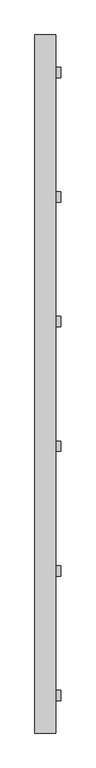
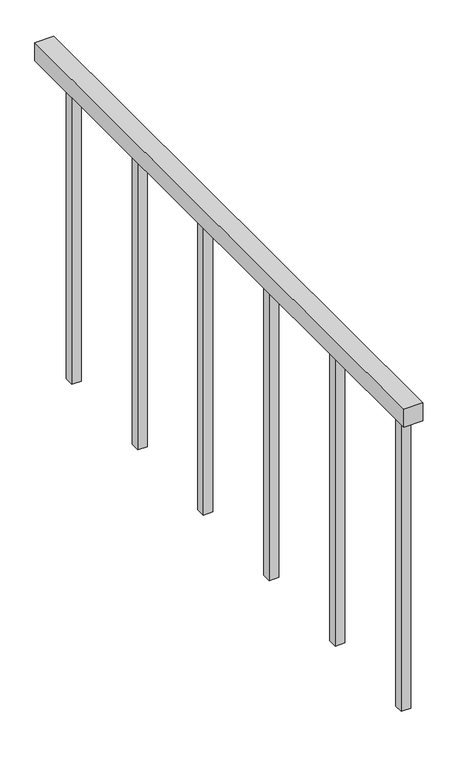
"""IFC4 building model written with IfcOpenShell, lengths in millimetres: railing geometry, ADSK_Стандартное_h 900 Поручень квадратный без направляющих."""

import ifcopenshell
import ifcopenshell.guid

model = None  # the IFC model being written
_history = None  # IfcOwnerHistory: only IFC2X3 demands one
_inside = {}  # id of a spatial element -> (the spatial element, [elements in it])
_under = {}  # id of a project, library or spatial element -> (it, [spatial elements below it])
_declared = {}  # id of a project -> (the project, [libraries it declares])
_typed = {}  # id of a type object -> (the type object, [elements of that type])
_made_of = {}  # id of a material, layer set ... -> (it, [elements and type objects made of it])


def new_model(schema):
    """Start an empty IFC model of exactly this schema.

    Asked for "IFC4X3", IfcOpenShell would pick the latest addendum, in which some entities
    have other attributes; the version numbers below select the first issue.
    IFC2X3 requires an IfcOwnerHistory on every rooted entity: one is made here for all.
    """
    global model, _history
    if schema == "IFC4X3":
        model = ifcopenshell.file(schema_version=(4, 3, 0, 0))
    else:
        model = ifcopenshell.file(schema=schema)
    _inside.clear()
    _under.clear()
    _declared.clear()
    _typed.clear()
    _made_of.clear()
    _history = None
    if model.schema == "IFC2X3":
        org = make("IfcOrganization", Name="unknown")
        user = make(
            "IfcPersonAndOrganization",
            ThePerson=make("IfcPerson", FamilyName="unknown"),
            TheOrganization=org,
        )
        app = make(
            "IfcApplication",
            ApplicationDeveloper=org,
            Version="unknown",
            ApplicationFullName="unknown",
            ApplicationIdentifier="unknown",
        )
        _history = make(
            "IfcOwnerHistory",
            OwningUser=user,
            OwningApplication=app,
            ChangeAction="ADDED",
            CreationDate=0,
        )
    return model


def make(cls, **values):
    """One entity of the class cls with the attributes given. An attribute that is None is left unset."""
    return model.create_entity(
        cls, **{name: value for name, value in values.items() if value is not None}
    )


def rooted(cls, **values):
    """An entity with a GlobalId (a new one), such as an element, a storey or a relation."""
    return make(cls, GlobalId=ifcopenshell.guid.new(), OwnerHistory=_history, **values)


def si_unit(unit_type, name, prefix=None):
    """IfcSIUnit, for example si_unit("LENGTHUNIT", "METRE", prefix="MILLI")."""
    return make("IfcSIUnit", UnitType=unit_type, Prefix=prefix, Name=name)


def assignment(units):
    """IfcUnitAssignment: the units of a project."""
    return None if units is None else make("IfcUnitAssignment", Units=units)


def point(xyz):
    """IfcCartesianPoint."""
    return None if xyz is None else make("IfcCartesianPoint", Coordinates=xyz)


def direction(xyz):
    """IfcDirection."""
    return None if xyz is None else make("IfcDirection", DirectionRatios=xyz)


def frame(location, z_axis=None, x_axis=None):
    """IfcAxis2Placement3D, a coordinate frame: its origin and axes. An axis left out is left unset."""
    return make(
        "IfcAxis2Placement3D",
        Location=point(location),
        Axis=direction(z_axis),
        RefDirection=direction(x_axis),
    )


def origin():
    """The frame at (0, 0, 0) with its axes left unset."""
    return frame((0.0, 0.0, 0.0))


def place(relative_to, where):
    """IfcLocalPlacement: puts the frame where relative to a parent placement (None: the world)."""
    return make(
        "IfcLocalPlacement", PlacementRelTo=relative_to, RelativePlacement=where
    )


def context(
    kind, dimensions, precision=None, world=None, true_north=None, identifier=None
):
    """IfcGeometricRepresentationContext, for example the 3D "Model" context."""
    return make(
        "IfcGeometricRepresentationContext",
        ContextIdentifier=identifier,
        ContextType=kind,
        CoordinateSpaceDimension=dimensions,
        Precision=precision,
        WorldCoordinateSystem=world,
        TrueNorth=true_north,
    )


def project(units=None, contexts=None):
    """IfcProject with its units and contexts."""
    return rooted(
        "IfcProject",
        Name="project",
        RepresentationContexts=contexts,
        UnitsInContext=assignment(units),
    )


def spatial(cls, under=None, at=None, **own):
    """A site, building, storey or space (cls), placed at a placement, below another one or the project."""
    s = rooted(cls, ObjectPlacement=at, **own)
    if under is not None:
        _under.setdefault(under.id(), (under, []))[1].append(s)
    return s


def polyline(points):
    """IfcPolyline through the points."""
    return make("IfcPolyline", Points=[point(p) for p in points])


def outline(outer, holes=None, kind="AREA"):
    """IfcArbitraryClosedProfileDef: a profile drawn as a closed curve; with holes, ...WithVoids."""
    if holes is None:
        return make("IfcArbitraryClosedProfileDef", ProfileType=kind, OuterCurve=outer)
    return make(
        "IfcArbitraryProfileDefWithVoids",
        ProfileType=kind,
        OuterCurve=outer,
        InnerCurves=holes,
    )


def extrude(swept, where, along, depth):
    """IfcExtrudedAreaSolid: the profile swept, set in the frame where, extruded along a direction by depth."""
    return make(
        "IfcExtrudedAreaSolid",
        SweptArea=swept,
        Position=where,
        ExtrudedDirection=direction(along),
        Depth=depth,
    )


def shape(context_of_items, identifier, shape_type, items):
    """IfcShapeRepresentation: the items that make up one representation, for example the "Body"."""
    return make(
        "IfcShapeRepresentation",
        ContextOfItems=context_of_items,
        RepresentationIdentifier=identifier,
        RepresentationType=shape_type,
        Items=items,
    )


def source(mapping_origin, context_of_items, identifier, shape_type, items):
    """IfcRepresentationMap: a shape defined once, which mapped items show again and again."""
    return make(
        "IfcRepresentationMap",
        MappingOrigin=mapping_origin,
        MappedRepresentation=shape(context_of_items, identifier, shape_type, items),
    )


def transform(
    local_origin,
    x_axis=None,
    y_axis=None,
    z_axis=None,
    scale=None,
    scale2=None,
    scale3=None,
    uniform=True,
):
    """IfcCartesianTransformationOperator3D, or its non-uniform kind. x_axis, y_axis, z_axis: its Axis1, 2, 3."""
    if uniform:
        return make(
            "IfcCartesianTransformationOperator3D",
            Axis1=direction(x_axis),
            Axis2=direction(y_axis),
            LocalOrigin=point(local_origin),
            Scale=scale,
            Axis3=direction(z_axis),
        )
    return make(
        "IfcCartesianTransformationOperator3DnonUniform",
        Axis1=direction(x_axis),
        Axis2=direction(y_axis),
        LocalOrigin=point(local_origin),
        Scale=scale,
        Axis3=direction(z_axis),
        Scale2=scale2,
        Scale3=scale3,
    )


def mapped(mapping_source, mapping_target):
    """IfcMappedItem: shows the shape of a source again, moved by a transform."""
    return make(
        "IfcMappedItem", MappingSource=mapping_source, MappingTarget=mapping_target
    )


def made_of(thing, what):
    """Note that an element or type object is made of a material, layer set ...; save() writes the relation."""
    if what is not None:
        _made_of.setdefault(what.id(), (what, []))[1].append(thing)
    return thing


def element(
    cls,
    number,
    at=None,
    inside=None,
    cuts=None,
    type_object=None,
    material=None,
    context=None,
    identifier="Body",
    shape_type=None,
    held_by="IfcProductDefinitionShape",
    body=None,
    shapes=None,
    **own,
):
    """One element of the class cls, such as IfcWall. Its Tag is "e" and its number.

    at: its placement. inside: the storey or other place that contains it. cuts: it is an
    opening in that element (IfcRelVoidsElement). A single representation is given by context,
    identifier, shape_type and body (its items); several are given by shapes. held_by: the class
    of the entity that holds the representations. save() writes the other relations.
    """
    e = rooted(cls, Tag="e%d" % number, ObjectPlacement=at, **own)
    if body is not None:
        shapes = [shape(context, identifier, shape_type, body)]
    if shapes is not None:
        e.Representation = make(held_by, Representations=shapes)
    if inside is not None:
        _inside.setdefault(inside.id(), (inside, []))[1].append(e)
    if cuts is not None:
        rooted(
            "IfcRelVoidsElement", RelatingBuildingElement=cuts, RelatedOpeningElement=e
        )
    if type_object is not None:
        _typed.setdefault(type_object.id(), (type_object, []))[1].append(e)
    return made_of(e, material)


def aggregate(whole, parts):
    """IfcRelAggregates: a whole, such as a stair, and the parts it consists of."""
    return rooted("IfcRelAggregates", RelatingObject=whole, RelatedObjects=parts)


def save(model, path):
    """Write the relations noted so far, then the file.

    IfcRelAggregates (storeys below a building ...), IfcRelContainedInSpatialStructure (elements
    in a storey), IfcRelDefinesByType, IfcRelAssociatesMaterial and IfcRelDeclares: one each for
    every whole, place, type object, material and project.
    """
    for whole, parts in _under.values():
        aggregate(whole, parts)
    for where, things in _inside.values():
        rooted(
            "IfcRelContainedInSpatialStructure",
            RelatedElements=things,
            RelatingStructure=where,
        )
    for kind, things in _typed.values():
        rooted("IfcRelDefinesByType", RelatedObjects=things, RelatingType=kind)
    for what, things in _made_of.values():
        rooted("IfcRelAssociatesMaterial", RelatedObjects=things, RelatingMaterial=what)
    for by, libraries in _declared.values():
        rooted("IfcRelDeclares", RelatingContext=by, RelatedDefinitions=libraries)
    model.write(path)


def railing_c3c35bb4(model_context):
    return source(origin(), model_context, "Body", "SweptSolid", [
        extrude(outline(polyline([(-28932.0291278, 10004.6370105), (-28882.0291278, 10004.6370105), (-28882.0291278, 8324.6370105), (-28932.0291278, 8324.6370105), (-28932.0291278, 10004.6370105)])), frame((0.0, 0.0, 4350.0), z_axis=(0.0, 0.0, 1.0), x_axis=(1.0, 0.0, 0.0)), (0.0, 0.0, 1.0), 50.0),
        extrude(outline(polyline([(-28894.5291278, 8427.1370105), (-28869.5291278, 8427.1370105), (-28869.5291278, 8402.1370105), (-28894.5291278, 8402.1370105), (-28894.5291278, 8427.1370105)])), frame((0.0, 0.0, 3500.0), z_axis=(0.0, 0.0, 1.0), x_axis=(1.0, 0.0, 0.0)), (0.0, 0.0, 1.0), 850.0),
        extrude(outline(polyline([(-28894.5291278, 8727.1370105), (-28869.5291278, 8727.1370105), (-28869.5291278, 8702.1370105), (-28894.5291278, 8702.1370105), (-28894.5291278, 8727.1370105)])), frame((0.0, 0.0, 3500.0), z_axis=(0.0, 0.0, 1.0), x_axis=(1.0, 0.0, 0.0)), (0.0, 0.0, 1.0), 850.0),
        extrude(outline(polyline([(-28894.5291278, 9027.1370105), (-28869.5291278, 9027.1370105), (-28869.5291278, 9002.1370105), (-28894.5291278, 9002.1370105), (-28894.5291278, 9027.1370105)])), frame((0.0, 0.0, 3500.0), z_axis=(0.0, 0.0, 1.0), x_axis=(1.0, 0.0, 0.0)), (0.0, 0.0, 1.0), 850.0),
        extrude(outline(polyline([(-28894.5291278, 9327.1370105), (-28869.5291278, 9327.1370105), (-28869.5291278, 9302.1370105), (-28894.5291278, 9302.1370105), (-28894.5291278, 9327.1370105)])), frame((0.0, 0.0, 3500.0), z_axis=(0.0, 0.0, 1.0), x_axis=(1.0, 0.0, 0.0)), (0.0, 0.0, 1.0), 850.0),
        extrude(outline(polyline([(-28894.5291278, 9627.1370105), (-28869.5291278, 9627.1370105), (-28869.5291278, 9602.1370105), (-28894.5291278, 9602.1370105), (-28894.5291278, 9627.1370105)])), frame((0.0, 0.0, 3500.0), z_axis=(0.0, 0.0, 1.0), x_axis=(1.0, 0.0, 0.0)), (0.0, 0.0, 1.0), 850.0),
        extrude(outline(polyline([(-28894.5291278, 9927.1370105), (-28869.5291278, 9927.1370105), (-28869.5291278, 9902.1370105), (-28894.5291278, 9902.1370105), (-28894.5291278, 9927.1370105)])), frame((0.0, 0.0, 3500.0), z_axis=(0.0, 0.0, 1.0), x_axis=(1.0, 0.0, 0.0)), (0.0, 0.0, 1.0), 850.0),
    ])


if __name__ == "__main__":
    model = new_model("IFC4")
    model_context = context("Model", 3, world=origin())
    ifc_project = project(units=[si_unit("LENGTHUNIT", "METRE", prefix="MILLI")], contexts=[model_context])
    site = spatial("IfcSite", under=ifc_project)
    building = spatial("IfcBuilding", under=site)
    placement = place(None, origin())
    railing_shape = railing_c3c35bb4(model_context)
    element("IfcRailing", 1, ObjectType="ADSK_Стандартное_h 900 Поручень квадратный без направляющих", at=placement, inside=building, context=model_context, shape_type="MappedRepresentation", body=[
        mapped(railing_shape, transform((0.0, 0.0, 0.0), x_axis=(1.0, 0.0, 0.0), y_axis=(0.0, 1.0, 0.0), z_axis=(0.0, 0.0, 1.0))),
    ])
    save(model, "model.ifc")
